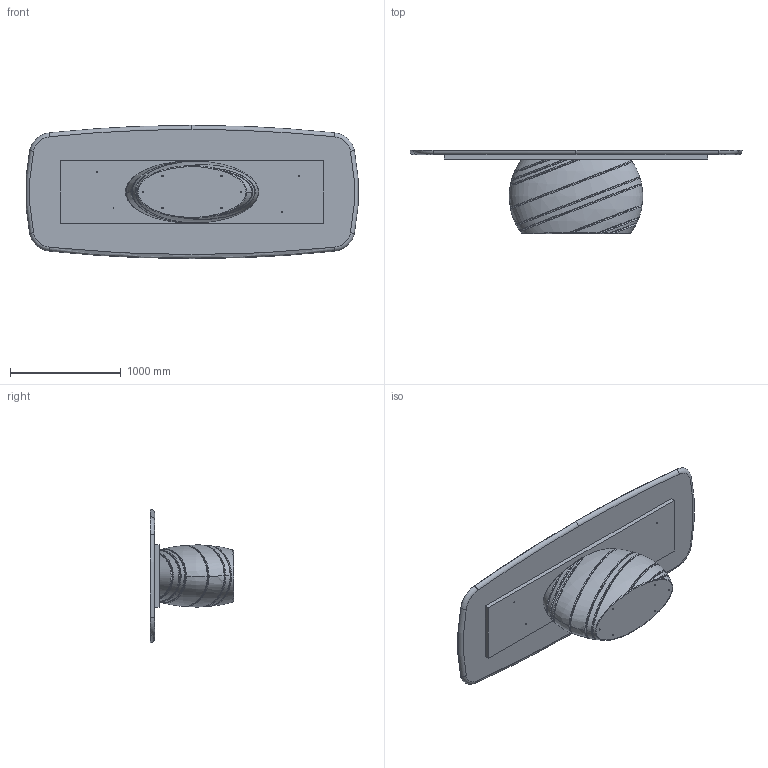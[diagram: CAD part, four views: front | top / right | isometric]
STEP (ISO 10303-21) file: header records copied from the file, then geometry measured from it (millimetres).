
FILE_DESCRIPTION (( 'STEP AP203' ), '1' );
FILE_NAME ('GI44W.STEP', '2025-04-22T14:22:08', ( '' ), ( '' ), 'SwSTEP 2.0', 'SolidWorks 2022', '' );
FILE_SCHEMA (( 'CONFIG_CONTROL_DESIGN' ));
Length unit declared in the file: millimetre
Products named in the file (3): GIB000xxx-00-BASE GIOVE X 300; PIANI_modello 3D x web_Legno 300x120 sag; GI44W
Assembly tree (2 placements, depth 2):
  GI44W
    PIANI_modello 3D x web_Legno 300x120 sag
    GIB000xxx-00-BASE GIOVE X 300
Bounding box: 2991.72 x 750 x 1200 mm (x, y, z)
Volume: 495231233.9 mm3; surface area: 12550041.1 mm2
Topology: 3 solids, 3 shells, 162 faces, 391 edges, 250 vertices
Faces by surface type: bspline 53, cylinder 45, plane 31, cone 24, torus 9
Entity records: 37373 total; most frequent: CARTESIAN_POINT 33631, ORIENTED_EDGE 782, DIRECTION 611, EDGE_CURVE 391, AXIS2_PLACEMENT_3D 259, VERTEX_POINT 250, EDGE_LOOP 189, ADVANCED_FACE 162
